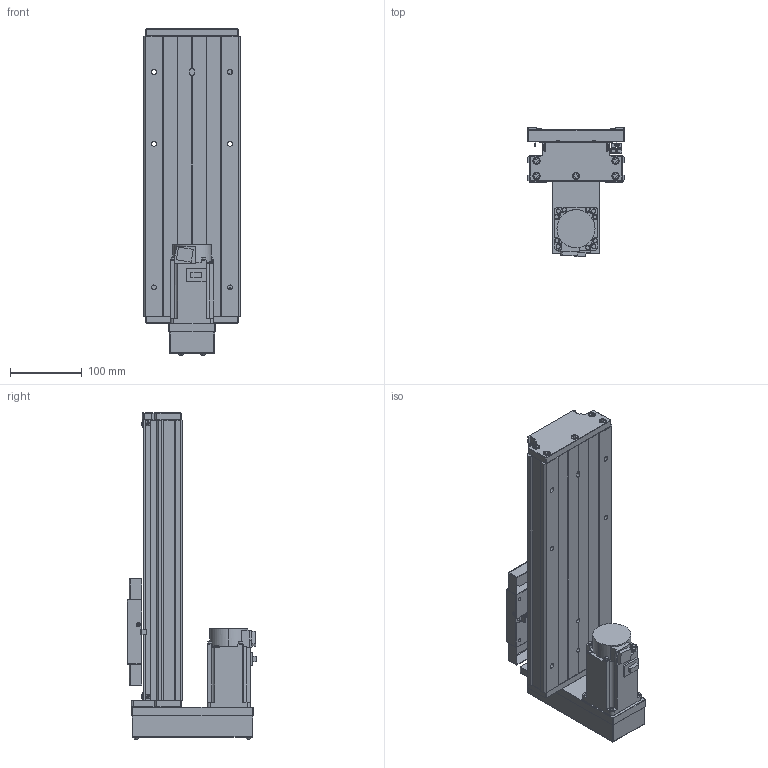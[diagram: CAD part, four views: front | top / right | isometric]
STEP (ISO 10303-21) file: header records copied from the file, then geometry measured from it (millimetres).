
FILE_DESCRIPTION (( 'STEP AP203' ), '1' );
FILE_NAME ('CTH130-200-BM-M40-C4.step', '2023-06-30T02:44:00', ( '微软用户' ), ( '微软中国' ), 'SwSTEP 2.0', 'SolidWorks 2020', '' );
FILE_SCHEMA (( 'CONFIG_CONTROL_DESIGN' ));
Length unit declared in the file: millimetre
Products named in the file (20): GTH14-001_200; CTHA60-017; す晦芛蹟隊 M3℅5; CTH130-002_GTH14-002; EE_SX911P_R; HG-KN43J-S100; GB T308.1-2013-6.35; CTHA60-016; GBT 70.2-M4¡Á35_M4¡Á35; GTH14-004; GBT 70.1-M3℅5; GTH14-015-2_CTHA86-015-2; GTH14-005; GBT77-2000 M3×3; GTH14-033; GB1155-6X6; CTH130-031; CTH130-200-BM-M40-C4; GBT70.1 M5℅16; GBT 70.2-M3¡Á5_M3¡Á6
Assembly tree (60 placements, depth 2):
  CTH130-200-BM-M40-C4
    GTH14-001_200
    CTH130-002_GTH14-002
    GB T308.1-2013-6.35  x2
    GTH14-004
    GTH14-005
    GB1155-6X6  x2
    GBT70.1 M5℅16  x10
    CTHA60-017  x3
    EE_SX911P_R  x3
    CTHA60-016  x2
    GBT 70.1-M3℅5  x6
    GBT77-2000 M3×3  x6
    CTH130-031
    GBT 70.2-M3¡Á5_M3¡Á6  x8
    す晦芛蹟隊 M3℅5  x6
    HG-KN43J-S100
    GBT 70.2-M4¡Á35_M4¡Á35  x4
    GTH14-015-2_CTHA86-015-2
    GTH14-033
Bounding box: 135 x 179.8 x 454.2 mm (x, y, z)
Volume: 2709018.9 mm3; surface area: 528180 mm2
Topology: 63 solids, 63 shells, 2415 faces, 5749 edges, 3553 vertices
Faces by surface type: plane 1306, cylinder 630, cone 299, torus 124, sphere 36, bspline 20
Entity records: 43308 total; most frequent: CARTESIAN_POINT 9747, DIRECTION 6282, ORIENTED_EDGE 6204, EDGE_CURVE 3102, AXIS2_PLACEMENT_3D 2132, VECTOR 2018, LINE 2018, VERTEX_POINT 1963
